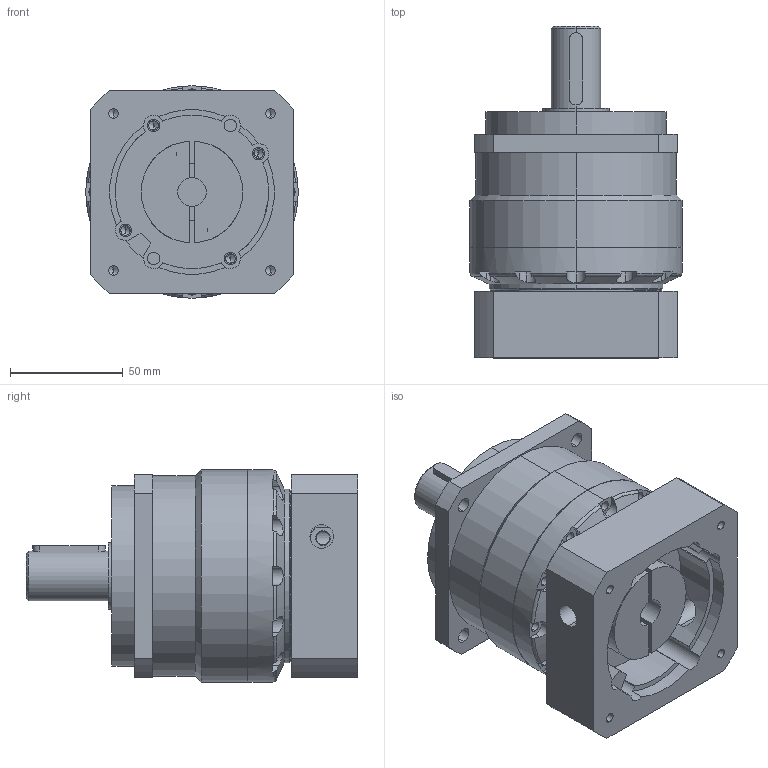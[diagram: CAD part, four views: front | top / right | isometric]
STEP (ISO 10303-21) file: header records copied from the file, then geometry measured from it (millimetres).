
FILE_DESCRIPTION(/* description */ (''),/* implementation_level */ '2;1');
FILE_NAME(/* name */ 'WVRB090-L1-B-73-方69.6-M5-12.7-41.stp',/* time_stamp */ '2023-04-24T13:48:33+08:00',/* author */ (''),/* organization */ (''),/* preprocessor_version */ 'ST-DEVELOPER v16.7',/* originating_system */ 'SIEMENS PLM Software NX 12.0',/* authorisation */ '');
FILE_SCHEMA (('AUTOMOTIVE_DESIGN { 1 0 10303 214 3 1 1 1 }'));
Length unit declared in the file: millimetre
Products named in the file (5): 行星底座-WAB090-DZ-(14-41-60-方6
9.6-M6)35; 行星后盖-WAD090-HG-S1-新款-(5
0260165)A-B; 行星法兰-WVRB090-L1; WAB090-DZ-73-方69.6-M6-14-41; WVRB090-L1-B-73-方69.6-M5-14-41_stp
Assembly tree (4 placements, depth 3):
  WVRB090-L1-B-73-方69.6-M5-14-41_stp
    WAB090-DZ-73-方69.6-M6-14-41
      行星底座-WAB090-DZ-(14-41-60-方6
9.6-M6)35
    行星法兰-WVRB090-L1
    行星后盖-WAD090-HG-S1-新款-(5
0260165)A-B
Bounding box: 94 x 147 x 94 mm (x, y, z)
Volume: 698589.3 mm3; surface area: 110246.1 mm2
Topology: 3 solids, 3 shells, 415 faces, 1084 edges, 666 vertices
Faces by surface type: cylinder 202, plane 101, cone 92, torus 20
Entity records: 13279 total; most frequent: CARTESIAN_POINT 2824, DIRECTION 2301, ORIENTED_EDGE 2076, EDGE_CURVE 1038, AXIS2_PLACEMENT_3D 923, VERTEX_POINT 666, EDGE_LOOP 510, CIRCLE 503
